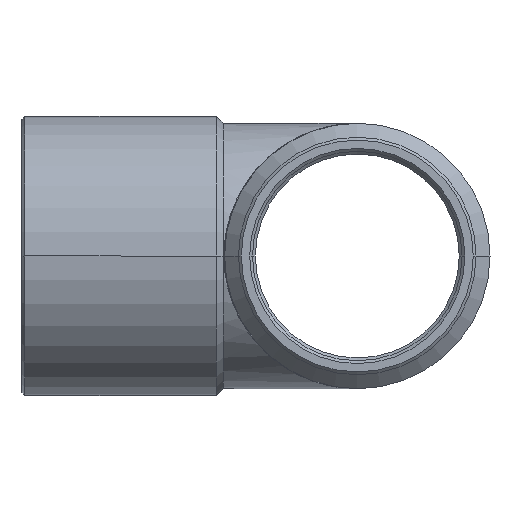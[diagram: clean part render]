
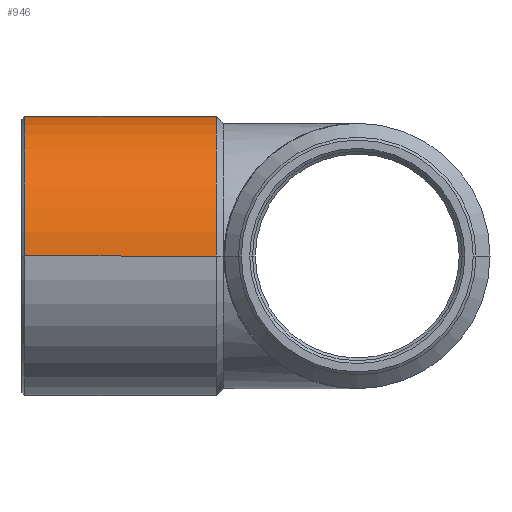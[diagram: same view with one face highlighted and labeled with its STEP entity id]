
A CAD part, left-side view. The second image highlights one B-rep face of the part: STEP entity #946.
In plain terms, the highlighted cylindrical face has radius 10 mm (diameter 20 mm), a partial arc.
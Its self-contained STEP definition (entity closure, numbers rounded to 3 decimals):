
#166=CARTESIAN_POINT('',(-10.,10.09,0.0));
#167=VERTEX_POINT('',#166);
#175=CARTESIAN_POINT('',(10.,10.09,0.));
#176=VERTEX_POINT('',#175);
#183=CARTESIAN_POINT('',(0.0,10.09,0.0));
#184=DIRECTION('',(0.0,1.0,0.0));
#185=DIRECTION('',(-1.0,0.0,0.0));
#186=AXIS2_PLACEMENT_3D('',#183,#184,#185);
#187=CIRCLE('',#186,10.);
#188=EDGE_CURVE('',#167,#176,#187,.T.);
#915=CARTESIAN_POINT('',(0.0,17.045,0.0));
#916=DIRECTION('',(0.0,1.0,0.0));
#917=DIRECTION('',(-1.0,0.0,0.0));
#918=AXIS2_PLACEMENT_3D('',#915,#916,#917);
#919=CYLINDRICAL_SURFACE('',#918,10.0);
#920=CARTESIAN_POINT('',(-10.0,23.8,0.));
#921=VERTEX_POINT('',#920);
#922=CARTESIAN_POINT('',(-10.,10.09,0.0));
#923=DIRECTION('',(0.0,1.0,0.0));
#924=VECTOR('',#923,13.71);
#925=LINE('',#922,#924);
#926=EDGE_CURVE('',#167,#921,#925,.T.);
#927=ORIENTED_EDGE('',*,*,#926,.F.);
#928=ORIENTED_EDGE('',*,*,#188,.T.);
#929=CARTESIAN_POINT('',(10.0,23.8,0.));
#930=VERTEX_POINT('',#929);
#931=CARTESIAN_POINT('',(10.0,23.8,0.));
#932=DIRECTION('',(0.0,-1.0,0.0));
#933=VECTOR('',#932,13.71);
#934=LINE('',#931,#933);
#935=EDGE_CURVE('',#930,#176,#934,.T.);
#936=ORIENTED_EDGE('',*,*,#935,.F.);
#937=CARTESIAN_POINT('',(0.0,23.8,0.0));
#938=DIRECTION('',(0.0,1.0,0.0));
#939=DIRECTION('',(1.0,0.0,0.0));
#940=AXIS2_PLACEMENT_3D('',#937,#938,#939);
#941=CIRCLE('',#940,10.0);
#942=EDGE_CURVE('',#921,#930,#941,.T.);
#943=ORIENTED_EDGE('',*,*,#942,.F.);
#944=EDGE_LOOP('',(#927,#928,#936,#943));
#945=FACE_OUTER_BOUND('',#944,.T.);
#946=ADVANCED_FACE('',(#945),#919,.T.);
